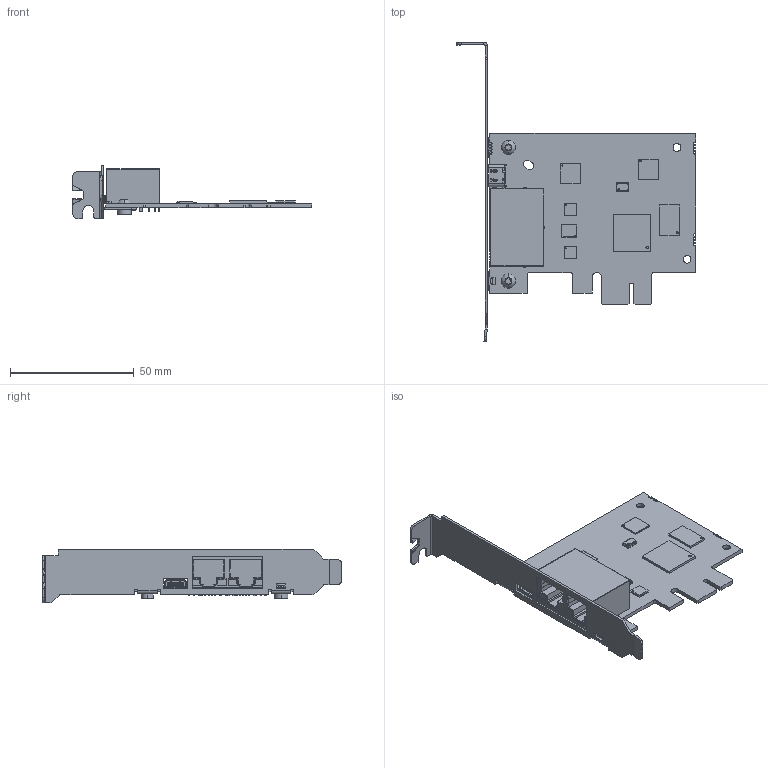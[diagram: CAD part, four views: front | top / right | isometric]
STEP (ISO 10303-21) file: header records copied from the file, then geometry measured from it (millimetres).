
FILE_DESCRIPTION (( 'STEP AP214' ), '1' );
FILE_NAME ('TL-FullProfile-Rev0.STEP', '2021-10-28T14:46:17', ( '' ), ( '' ), 'SwSTEP 2.0', 'SolidWorks 2020', '' );
FILE_SCHEMA (( 'AUTOMOTIVE_DESIGN' ));
Length unit declared in the file: millimetre
Products named in the file (4): TLO500_PCBA_Rev0; Screw-Torx-Linse-M3x4_M3 - L4; TL-FullProfile-Rev0; PCI-Bracket-FP-TLO500
Assembly tree (4 placements, depth 2):
  TL-FullProfile-Rev0
    TLO500_PCBA_Rev0
    PCI-Bracket-FP-TLO500
    Screw-Torx-Linse-M3x4_M3 - L4  x2
Bounding box: 96.48 x 120.97 x 21.59 mm (x, y, z)
Volume: 17773.8 mm3; surface area: 21698.1 mm2
Topology: 15 solids, 15 shells, 3999 faces, 10288 edges, 6768 vertices
Faces by surface type: plane 2241, cylinder 1316, sphere 352, bspline 44, torus 32, cone 14
Entity records: 148275 total; most frequent: CARTESIAN_POINT 62265, ORIENTED_EDGE 20426, DIRECTION 10502, EDGE_CURVE 10213, B_SPLINE_CURVE_WITH_KNOTS 8247, VERTEX_POINT 6726, AXIS2_PLACEMENT_3D 4644, EDGE_LOOP 4521
